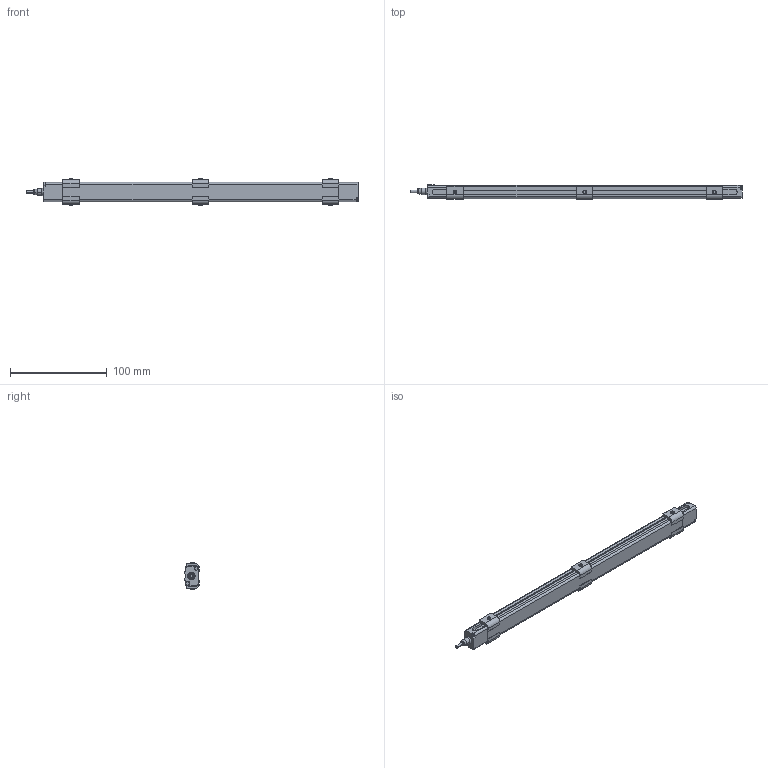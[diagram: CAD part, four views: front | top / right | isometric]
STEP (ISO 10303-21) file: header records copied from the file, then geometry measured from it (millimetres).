
FILE_DESCRIPTION((''),'2;1');
FILE_NAME('R412010886_ASM','2024-04-01T15:21:13',('THD3HC'),(''),'CREO PARAMETRIC BY PTC INC, 2023092','CREO PARAMETRIC BY PTC INC, 2023092','');
FILE_SCHEMA(('CONFIG_CONTROL_DESIGN','SHAPE_APPEARANCE_LAYERS_GROUPS'));
Length unit declared in the file: millimetre
Products named in the file (3): R412010886; R412010906; R412010886_ASM
Assembly tree (7 placements, depth 2):
  R412010886_ASM
    R412010886
    R412010906  x6
Bounding box: 343 x 15.21 x 28 mm (x, y, z)
Volume: 81692.6 mm3; surface area: 33389.8 mm2
Topology: 7 solids, 7 shells, 337 faces, 838 edges, 546 vertices
Faces by surface type: plane 197, cylinder 109, cone 28, bspline 3
Entity records: 8599 total; most frequent: CARTESIAN_POINT 1580, DIRECTION 854, ORIENTED_EDGE 816, PRESENTATION_STYLE_ASSIGNMENT 551, STYLED_ITEM 410, CURVE_STYLE 408, EDGE_CURVE 408, AXIS2_PLACEMENT_3D 286
